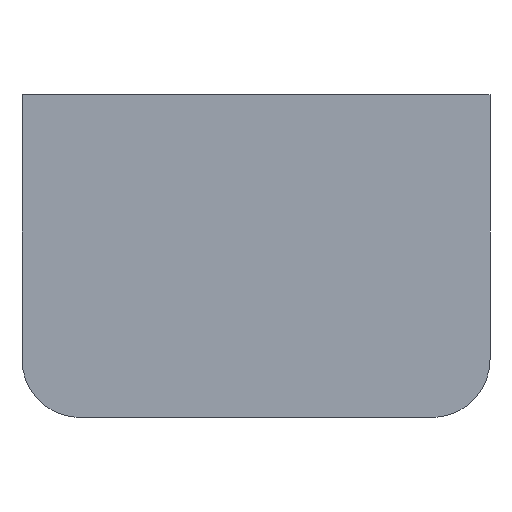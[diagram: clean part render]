
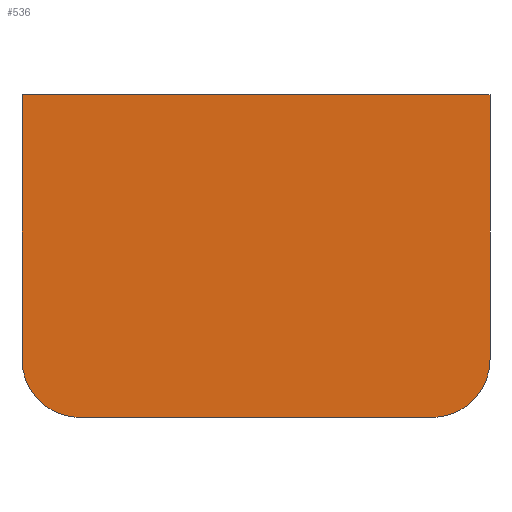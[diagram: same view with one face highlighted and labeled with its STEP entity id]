
A CAD part, front view. The second image highlights one B-rep face of the part: STEP entity #536.
In plain terms, the highlighted planar face has unit normal (0, -1, 0).
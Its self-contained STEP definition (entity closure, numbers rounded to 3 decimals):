
#15 = CIRCLE ( 'NONE', #51, 1.575 ) ;
#22 = DIRECTION ( 'NONE',  ( 0., -1., 0. ) ) ;
#36 = VECTOR ( 'NONE', #264, 1000. ) ;
#42 = VECTOR ( 'NONE', #558, 1000. ) ;
#45 = VERTEX_POINT ( 'NONE', #583 ) ;
#51 = AXIS2_PLACEMENT_3D ( 'NONE', #94, #22, #395 ) ;
#56 = LINE ( 'NONE', #563, #42 ) ;
#57 = LINE ( 'NONE', #298, #36 ) ;
#67 = CARTESIAN_POINT ( 'NONE',  ( 6.35, 0., 4.382 ) ) ;
#68 = DIRECTION ( 'NONE',  ( 0., -1., 0. ) ) ;
#71 = VECTOR ( 'NONE', #336, 1000. ) ;
#75 = CARTESIAN_POINT ( 'NONE',  ( 0., 0., 0. ) ) ;
#78 = EDGE_CURVE ( 'NONE', #475, #643, #251, .T. ) ;
#82 = LINE ( 'NONE', #717, #71 ) ;
#94 = CARTESIAN_POINT ( 'NONE',  ( 4.775, 0., -2.807 ) ) ;
#142 = FACE_OUTER_BOUND ( 'NONE', #653, .T. ) ;
#169 = VECTOR ( 'NONE', #289, 1000. ) ;
#174 = AXIS2_PLACEMENT_3D ( 'NONE', #75, #318, #719 ) ;
#182 = LINE ( 'NONE', #693, #169 ) ;
#251 = CIRCLE ( 'NONE', #389, 1.575 ) ;
#264 = DIRECTION ( 'NONE',  ( 0., 0., -1. ) ) ;
#286 = ORIENTED_EDGE ( 'NONE', *, *, #625, .F. ) ;
#289 = DIRECTION ( 'NONE',  ( -1., 0., 0. ) ) ;
#298 = CARTESIAN_POINT ( 'NONE',  ( 6.35, 0., 4.382 ) ) ;
#318 = DIRECTION ( 'NONE',  ( 0., -1., 0. ) ) ;
#320 = ORIENTED_EDGE ( 'NONE', *, *, #481, .F. ) ;
#325 = CARTESIAN_POINT ( 'NONE',  ( -4.775, 0., -4.381 ) ) ;
#336 = DIRECTION ( 'NONE',  ( 0., 0., 1. ) ) ;
#340 = PLANE ( 'NONE',  #174 ) ;
#389 = AXIS2_PLACEMENT_3D ( 'NONE', #712, #68, #627 ) ;
#394 = ORIENTED_EDGE ( 'NONE', *, *, #667, .F. ) ;
#395 = DIRECTION ( 'NONE',  ( 0., 0., -1. ) ) ;
#408 = ORIENTED_EDGE ( 'NONE', *, *, #663, .F. ) ;
#417 = CARTESIAN_POINT ( 'NONE',  ( -6.35, 0., -2.807 ) ) ;
#474 = CARTESIAN_POINT ( 'NONE',  ( -6.35, 0., 4.382 ) ) ;
#475 = VERTEX_POINT ( 'NONE', #417 ) ;
#481 = EDGE_CURVE ( 'NONE', #564, #643, #182, .T. ) ;
#529 = CARTESIAN_POINT ( 'NONE',  ( 4.775, 0., -4.381 ) ) ;
#536 = ADVANCED_FACE ( 'NONE', ( #142 ), #340, .T. ) ;
#540 = ORIENTED_EDGE ( 'NONE', *, *, #708, .T. ) ;
#558 = DIRECTION ( 'NONE',  ( 1., 0., 0. ) ) ;
#563 = CARTESIAN_POINT ( 'NONE',  ( -6.35, 0., 4.382 ) ) ;
#564 = VERTEX_POINT ( 'NONE', #529 ) ;
#581 = ORIENTED_EDGE ( 'NONE', *, *, #78, .T. ) ;
#583 = CARTESIAN_POINT ( 'NONE',  ( 6.35, 0., -2.807 ) ) ;
#593 = VERTEX_POINT ( 'NONE', #474 ) ;
#625 = EDGE_CURVE ( 'NONE', #475, #593, #82, .T. ) ;
#627 = DIRECTION ( 'NONE',  ( 0., 0., -1. ) ) ;
#631 = VERTEX_POINT ( 'NONE', #67 ) ;
#643 = VERTEX_POINT ( 'NONE', #325 ) ;
#653 = EDGE_LOOP ( 'NONE', ( #320, #540, #394, #408, #286, #581 ) ) ;
#663 = EDGE_CURVE ( 'NONE', #593, #631, #56, .T. ) ;
#667 = EDGE_CURVE ( 'NONE', #631, #45, #57, .T. ) ;
#693 = CARTESIAN_POINT ( 'NONE',  ( -6.35, 0., -4.381 ) ) ;
#708 = EDGE_CURVE ( 'NONE', #564, #45, #15, .T. ) ;
#712 = CARTESIAN_POINT ( 'NONE',  ( -4.775, 0., -2.807 ) ) ;
#717 = CARTESIAN_POINT ( 'NONE',  ( -6.35, 0., 4.382 ) ) ;
#719 = DIRECTION ( 'NONE',  ( 0., 0., -1. ) ) ;
